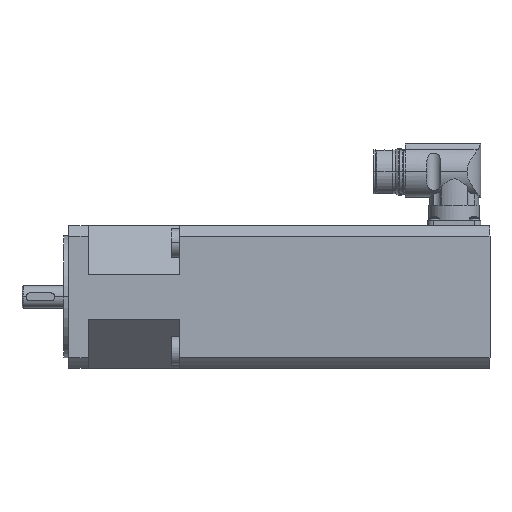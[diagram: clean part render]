
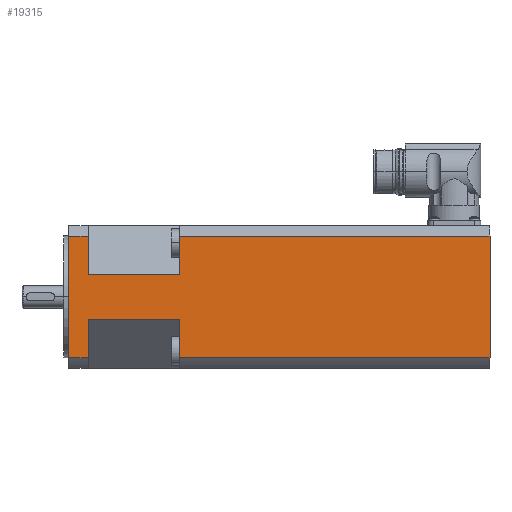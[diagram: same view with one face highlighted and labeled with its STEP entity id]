
A CAD part, front view. The second image highlights one B-rep face of the part: STEP entity #19315.
In plain terms, the highlighted planar face has unit normal (0, -1, 0).
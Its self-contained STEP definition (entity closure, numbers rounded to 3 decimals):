
#18495=CARTESIAN_POINT('',(794.764,477.104,-29.85));
#18496=VERTEX_POINT('',#18495);
#18504=CARTESIAN_POINT('',(794.764,477.104,-10.962));
#18505=VERTEX_POINT('',#18504);
#18506=CARTESIAN_POINT('',(794.764,477.104,-10.962));
#18507=DIRECTION('',(0.,0.,-1.0));
#18508=VECTOR('',#18507,18.888);
#18509=LINE('',#18506,#18508);
#18510=EDGE_CURVE('',#18505,#18496,#18509,.T.);
#18595=CARTESIAN_POINT('',(749.764,477.104,10.962));
#18596=VERTEX_POINT('',#18595);
#18603=CARTESIAN_POINT('',(794.764,477.104,10.962));
#18604=VERTEX_POINT('',#18603);
#18605=CARTESIAN_POINT('',(794.764,477.104,10.962));
#18606=DIRECTION('',(-1.0,0.,0.));
#18607=VECTOR('',#18606,45.);
#18608=LINE('',#18605,#18607);
#18609=EDGE_CURVE('',#18604,#18596,#18608,.T.);
#19169=CARTESIAN_POINT('',(749.764,477.104,-29.85));
#19170=VERTEX_POINT('',#19169);
#19171=CARTESIAN_POINT('',(740.264,477.104,-29.85));
#19172=VERTEX_POINT('',#19171);
#19173=CARTESIAN_POINT('',(749.764,477.104,-29.85));
#19174=DIRECTION('',(-1.0,0.,0.0));
#19175=VECTOR('',#19174,9.5);
#19176=LINE('',#19173,#19175);
#19177=EDGE_CURVE('',#19170,#19172,#19176,.T.);
#19211=CARTESIAN_POINT('',(740.264,477.104,29.85));
#19212=VERTEX_POINT('',#19211);
#19213=CARTESIAN_POINT('',(749.764,477.104,29.85));
#19214=VERTEX_POINT('',#19213);
#19215=CARTESIAN_POINT('',(740.264,477.104,29.85));
#19216=DIRECTION('',(1.0,0.,0.0));
#19217=VECTOR('',#19216,9.5);
#19218=LINE('',#19215,#19217);
#19219=EDGE_CURVE('',#19212,#19214,#19218,.T.);
#19248=CARTESIAN_POINT('',(740.264,477.104,-44.));
#19249=DIRECTION('',(0.,-1.0,0.));
#19250=DIRECTION('',(0.0,0.0,-1.0));
#19251=AXIS2_PLACEMENT_3D('',#19248,#19249,#19250);
#19252=PLANE('',#19251);
#19253=ORIENTED_EDGE('',*,*,#19219,.F.);
#19254=CARTESIAN_POINT('',(740.264,477.104,29.85));
#19255=DIRECTION('',(0.0,0.0,-1.0));
#19256=VECTOR('',#19255,59.699);
#19257=LINE('',#19254,#19256);
#19258=EDGE_CURVE('',#19212,#19172,#19257,.T.);
#19259=ORIENTED_EDGE('',*,*,#19258,.T.);
#19260=ORIENTED_EDGE('',*,*,#19177,.F.);
#19261=CARTESIAN_POINT('',(749.764,477.104,-10.962));
#19262=VERTEX_POINT('',#19261);
#19263=CARTESIAN_POINT('',(749.764,477.104,-29.85));
#19264=DIRECTION('',(0.0,0.0,1.0));
#19265=VECTOR('',#19264,18.888);
#19266=LINE('',#19263,#19265);
#19267=EDGE_CURVE('',#19170,#19262,#19266,.T.);
#19268=ORIENTED_EDGE('',*,*,#19267,.T.);
#19269=CARTESIAN_POINT('',(749.764,477.104,-10.962));
#19270=DIRECTION('',(1.0,0.,0.));
#19271=VECTOR('',#19270,45.);
#19272=LINE('',#19269,#19271);
#19273=EDGE_CURVE('',#19262,#18505,#19272,.T.);
#19274=ORIENTED_EDGE('',*,*,#19273,.T.);
#19275=ORIENTED_EDGE('',*,*,#18510,.T.);
#19276=CARTESIAN_POINT('',(947.264,477.104,-29.85));
#19277=VERTEX_POINT('',#19276);
#19278=CARTESIAN_POINT('',(794.764,477.104,-29.85));
#19279=DIRECTION('',(1.0,0.,0.));
#19280=VECTOR('',#19279,152.5);
#19281=LINE('',#19278,#19280);
#19282=EDGE_CURVE('',#18496,#19277,#19281,.T.);
#19283=ORIENTED_EDGE('',*,*,#19282,.T.);
#19284=CARTESIAN_POINT('',(947.264,477.104,29.85));
#19285=VERTEX_POINT('',#19284);
#19286=CARTESIAN_POINT('',(947.264,477.104,-29.85));
#19287=DIRECTION('',(0.0,0.0,1.0));
#19288=VECTOR('',#19287,59.699);
#19289=LINE('',#19286,#19288);
#19290=EDGE_CURVE('',#19277,#19285,#19289,.T.);
#19291=ORIENTED_EDGE('',*,*,#19290,.T.);
#19292=CARTESIAN_POINT('',(794.764,477.104,29.85));
#19293=VERTEX_POINT('',#19292);
#19294=CARTESIAN_POINT('',(947.264,477.104,29.85));
#19295=DIRECTION('',(-1.0,0.,0.));
#19296=VECTOR('',#19295,152.5);
#19297=LINE('',#19294,#19296);
#19298=EDGE_CURVE('',#19285,#19293,#19297,.T.);
#19299=ORIENTED_EDGE('',*,*,#19298,.T.);
#19300=CARTESIAN_POINT('',(794.764,477.104,29.85));
#19301=DIRECTION('',(0.0,0.,-1.0));
#19302=VECTOR('',#19301,18.888);
#19303=LINE('',#19300,#19302);
#19304=EDGE_CURVE('',#19293,#18604,#19303,.T.);
#19305=ORIENTED_EDGE('',*,*,#19304,.T.);
#19306=ORIENTED_EDGE('',*,*,#18609,.T.);
#19307=CARTESIAN_POINT('',(749.764,477.104,10.962));
#19308=DIRECTION('',(0.0,0.0,1.0));
#19309=VECTOR('',#19308,18.888);
#19310=LINE('',#19307,#19309);
#19311=EDGE_CURVE('',#18596,#19214,#19310,.T.);
#19312=ORIENTED_EDGE('',*,*,#19311,.T.);
#19313=EDGE_LOOP('',(#19253,#19259,#19260,#19268,#19274,#19275,#19283,#19291,#19299,#19305,#19306,#19312));
#19314=FACE_OUTER_BOUND('',#19313,.T.);
#19315=ADVANCED_FACE('',(#19314),#19252,.T.);
